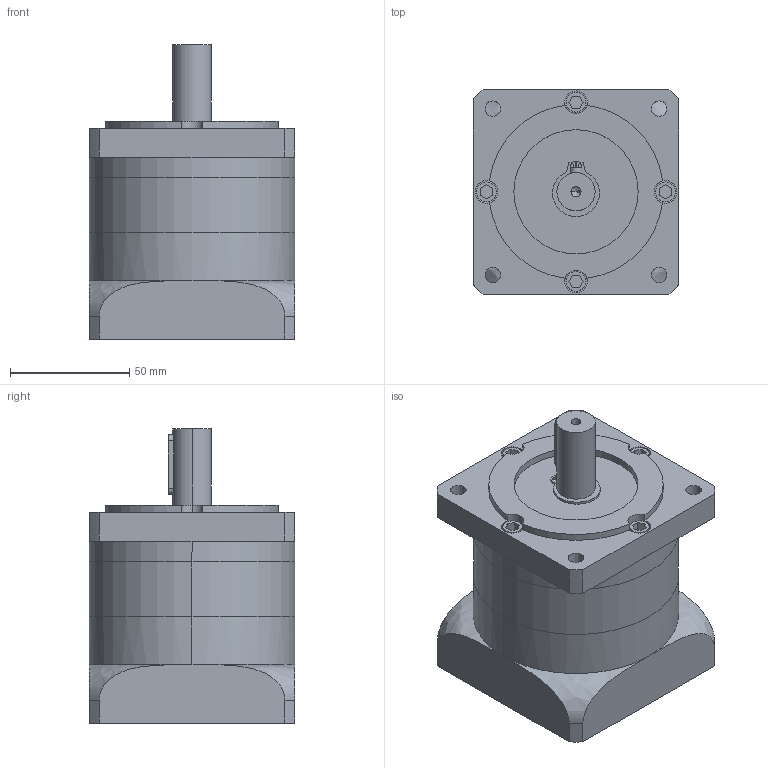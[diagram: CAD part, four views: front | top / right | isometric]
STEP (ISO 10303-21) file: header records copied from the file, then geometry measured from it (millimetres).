
FILE_DESCRIPTION (( 'STEP AP214' ), '1' );
FILE_NAME ('DLF86-L1-( )-J16.step', '2020-11-17T06:01:42', ( 'Moofasta' ), ( '' ), 'SwSTEP 2.0', 'SolidWorks 2020', '' );
FILE_SCHEMA (( 'AUTOMOTIVE_DESIGN' ));
Length unit declared in the file: millimetre
Products named in the file (1): DLF86-L1-( )-J16
Bounding box: 86 x 86 x 123.2 mm (x, y, z)
Volume: 511619.3 mm3; surface area: 84156.6 mm2
Topology: 3 solids, 3 shells, 223 faces, 551 edges, 355 vertices
Faces by surface type: plane 117, cylinder 92, cone 10, bspline 4
Entity records: 7827 total; most frequent: CARTESIAN_POINT 1955, DIRECTION 1163, ORIENTED_EDGE 1082, EDGE_CURVE 541, AXIS2_PLACEMENT_3D 421, VERTEX_POINT 355, VECTOR 321, LINE 321
